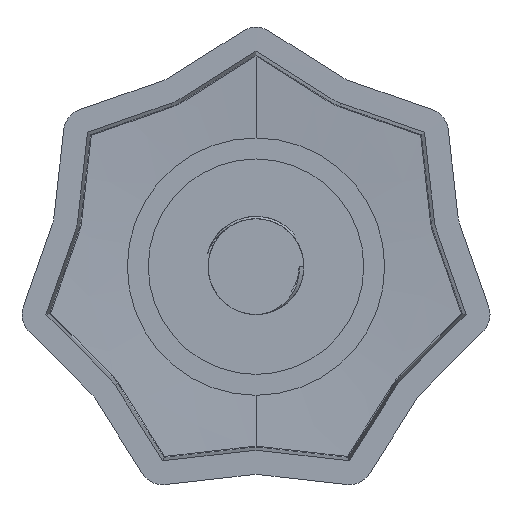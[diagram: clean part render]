
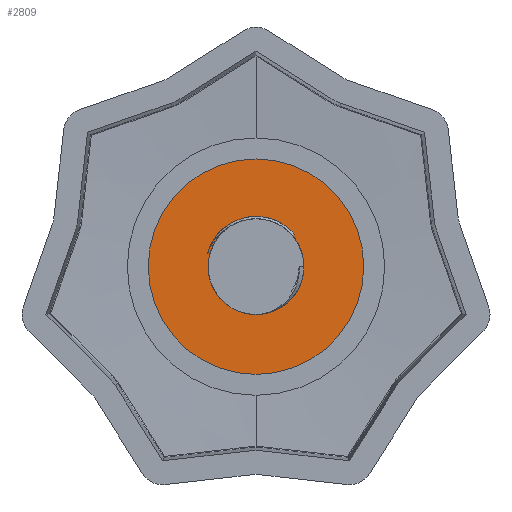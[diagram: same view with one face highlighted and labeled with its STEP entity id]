
A CAD part, front view. The second image highlights one B-rep face of the part: STEP entity #2809.
In plain terms, the highlighted planar face has unit normal (0, -1, 0).
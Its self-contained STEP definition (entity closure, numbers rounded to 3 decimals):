
#19 = CIRCLE ( 'NONE', #2045, 4. ) ;
#141 = CARTESIAN_POINT ( 'NONE',  ( -3.965, -8., 1.356 ) ) ;
#243 = EDGE_CURVE ( 'NONE', #2672, #6952, #5143, .T. ) ;
#379 = CIRCLE ( 'NONE', #7409, 4.2 ) ;
#490 = DIRECTION ( 'NONE',  ( -0.766, 0., -0.643 ) ) ;
#734 = CARTESIAN_POINT ( 'NONE',  ( 3.064, -8., 2.571 ) ) ;
#755 = EDGE_CURVE ( 'NONE', #5816, #2672, #379, .T. ) ;
#767 = CARTESIAN_POINT ( 'NONE',  ( 0., -8., 9. ) ) ;
#880 = AXIS2_PLACEMENT_3D ( 'NONE', #6803, #3145, #7387 ) ;
#920 = DIRECTION ( 'NONE',  ( 0., 1., 0. ) ) ;
#1042 = B_SPLINE_CURVE_WITH_KNOTS ( 'NONE', 3,
 ( #1329, #4992, #6213, #2553, #6817, #3167, #7401, #3776, #141, #4399 ),
 .UNSPECIFIED., .F., .F.,
 ( 4, 2, 2, 2, 4 ),
 ( 0.006, 0.006, 0.007, 0.008, 0.008 ),
 .UNSPECIFIED. ) ;
#1080 = DIRECTION ( 'NONE',  ( 0., -1., 0. ) ) ;
#1294 = DIRECTION ( 'NONE',  ( 0., -1., 0. ) ) ;
#1329 = CARTESIAN_POINT ( 'NONE',  ( -2.214, -8., 3.331 ) ) ;
#1535 = VERTEX_POINT ( 'NONE', #7566 ) ;
#1668 = CARTESIAN_POINT ( 'NONE',  ( 3.217, -8., 2.7 ) ) ;
#2045 = AXIS2_PLACEMENT_3D ( 'NONE', #2951, #7208, #3576 ) ;
#2088 = VECTOR ( 'NONE', #490, 1000. ) ;
#2553 = CARTESIAN_POINT ( 'NONE',  ( -3.001, -8., 2.754 ) ) ;
#2672 = VERTEX_POINT ( 'NONE', #1668 ) ;
#2809 = ADVANCED_FACE ( 'NONE', ( #5385, #3740 ), #6537, .T. ) ;
#2886 = DIRECTION ( 'NONE',  ( 0., -1., 0. ) ) ;
#2911 = ORIENTED_EDGE ( 'NONE', *, *, #6889, .T. ) ;
#2951 = CARTESIAN_POINT ( 'NONE',  ( 0., -8., 0. ) ) ;
#3145 = DIRECTION ( 'NONE',  ( 0., -1., 0. ) ) ;
#3167 = CARTESIAN_POINT ( 'NONE',  ( -3.483, -8., 2.207 ) ) ;
#3576 = DIRECTION ( 'NONE',  ( 0., 0., -1. ) ) ;
#3654 = AXIS2_PLACEMENT_3D ( 'NONE', #4060, #2886, #7142 ) ;
#3739 = VERTEX_POINT ( 'NONE', #7340 ) ;
#3740 = FACE_BOUND ( 'NONE', #5261, .T. ) ;
#3776 = CARTESIAN_POINT ( 'NONE',  ( -3.864, -8., 1.578 ) ) ;
#4060 = CARTESIAN_POINT ( 'NONE',  ( 0., -8., 0. ) ) ;
#4212 = EDGE_CURVE ( 'NONE', #1535, #4268, #4404, .T. ) ;
#4268 = VERTEX_POINT ( 'NONE', #767 ) ;
#4399 = CARTESIAN_POINT ( 'NONE',  ( -4.047, -8., 1.124 ) ) ;
#4404 = CIRCLE ( 'NONE', #880, 9. ) ;
#4560 = CARTESIAN_POINT ( 'NONE',  ( 0., -8., 0. ) ) ;
#4712 = AXIS2_PLACEMENT_3D ( 'NONE', #4732, #1080, #5338 ) ;
#4732 = CARTESIAN_POINT ( 'NONE',  ( 0., -8., 0. ) ) ;
#4790 = CIRCLE ( 'NONE', #4712, 9. ) ;
#4871 = CARTESIAN_POINT ( 'NONE',  ( 0., -8., 0. ) ) ;
#4952 = CARTESIAN_POINT ( 'NONE',  ( 0., -8., 0. ) ) ;
#4992 = CARTESIAN_POINT ( 'NONE',  ( -2.425, -8., 3.21 ) ) ;
#5143 = LINE ( 'NONE', #4871, #2088 ) ;
#5180 = DIRECTION ( 'NONE',  ( 0., 0., -1. ) ) ;
#5261 = EDGE_LOOP ( 'NONE', ( #6587, #6309, #6187, #6981, #2911 ) ) ;
#5338 = DIRECTION ( 'NONE',  ( 0., 0., -1. ) ) ;
#5385 = FACE_OUTER_BOUND ( 'NONE', #5426, .T. ) ;
#5426 = EDGE_LOOP ( 'NONE', ( #6500, #6097 ) ) ;
#5435 = VERTEX_POINT ( 'NONE', #6903 ) ;
#5565 = DIRECTION ( 'NONE',  ( 0., 0., -1. ) ) ;
#5816 = VERTEX_POINT ( 'NONE', #7207 ) ;
#6097 = ORIENTED_EDGE ( 'NONE', *, *, #4212, .T. ) ;
#6187 = ORIENTED_EDGE ( 'NONE', *, *, #6709, .F. ) ;
#6213 = CARTESIAN_POINT ( 'NONE',  ( -2.627, -8., 3.068 ) ) ;
#6309 = ORIENTED_EDGE ( 'NONE', *, *, #243, .T. ) ;
#6328 = AXIS2_PLACEMENT_3D ( 'NONE', #4952, #1294, #5565 ) ;
#6500 = ORIENTED_EDGE ( 'NONE', *, *, #7185, .T. ) ;
#6537 = PLANE ( 'NONE',  #3654 ) ;
#6587 = ORIENTED_EDGE ( 'NONE', *, *, #755, .T. ) ;
#6709 = EDGE_CURVE ( 'NONE', #5435, #6952, #19, .T. ) ;
#6803 = CARTESIAN_POINT ( 'NONE',  ( 0., -8., 0. ) ) ;
#6817 = CARTESIAN_POINT ( 'NONE',  ( -3.172, -8., 2.581 ) ) ;
#6889 = EDGE_CURVE ( 'NONE', #3739, #5816, #1042, .T. ) ;
#6903 = CARTESIAN_POINT ( 'NONE',  ( 0., -8., -4. ) ) ;
#6952 = VERTEX_POINT ( 'NONE', #734 ) ;
#6981 = ORIENTED_EDGE ( 'NONE', *, *, #7446, .F. ) ;
#7142 = DIRECTION ( 'NONE',  ( 0., 0., -1. ) ) ;
#7185 = EDGE_CURVE ( 'NONE', #4268, #1535, #4790, .T. ) ;
#7207 = CARTESIAN_POINT ( 'NONE',  ( -4.047, -8., 1.124 ) ) ;
#7208 = DIRECTION ( 'NONE',  ( 0., -1., 0. ) ) ;
#7237 = CIRCLE ( 'NONE', #6328, 4. ) ;
#7340 = CARTESIAN_POINT ( 'NONE',  ( -2.214, -8., 3.331 ) ) ;
#7387 = DIRECTION ( 'NONE',  ( 0., 0., -1. ) ) ;
#7401 = CARTESIAN_POINT ( 'NONE',  ( -3.624, -8., 2.004 ) ) ;
#7409 = AXIS2_PLACEMENT_3D ( 'NONE', #4560, #920, #5180 ) ;
#7446 = EDGE_CURVE ( 'NONE', #3739, #5435, #7237, .T. ) ;
#7566 = CARTESIAN_POINT ( 'NONE',  ( 0., -8., -9. ) ) ;
